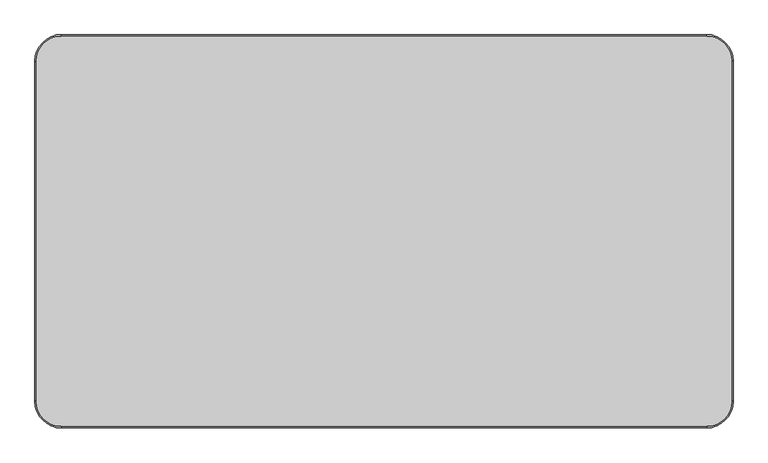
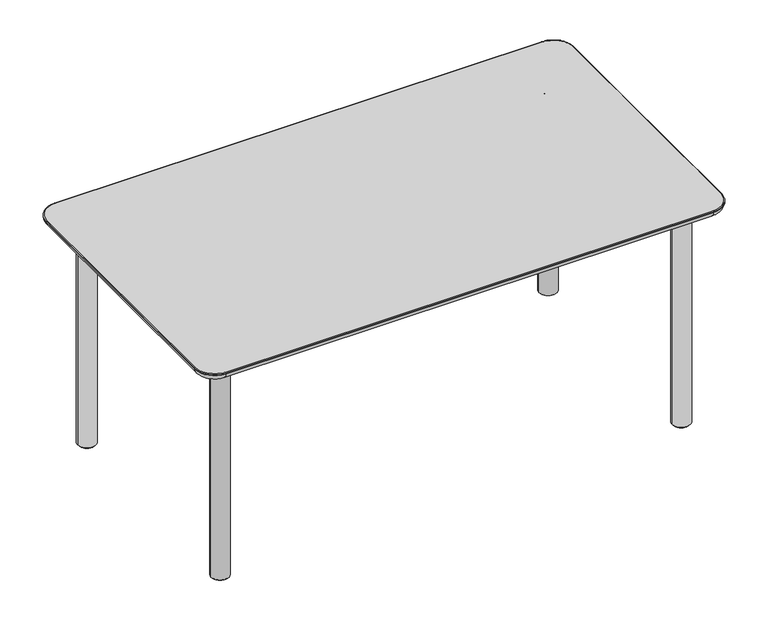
"""IFC4 building model written with IfcOpenShell, lengths in millimetres: furniture geometry, Fredericia - Plan Wood Table - 6680 : Fredericia - Plan Wood Table - 6680."""

from ifc_helpers import new_model, si_unit, point, frame, frame_2d, origin, place, context, project, spatial, polyline, circle_curve, ellipse_curve, trimmed, segment, composite_curve, outline, extrude, source, transform, mapped, element, save
from ifc_brep_helpers import plane_surface, cylinder_surface, revolved_surface, advanced_brep


def furniture_c67f00c6(model_context):
    return source(origin(), model_context, "Body", "SolidModel", [
        extrude(outline(composite_curve([segment(trimmed(circle_curve(frame_2d((655.0, -700.5)), 12.0), [point((655.0, -712.5))], [point((643.0, -700.5))], False, "CARTESIAN"), True, "CONTINUOUS"), segment(polyline([(643.0, -700.5), (643.0, -689.5)]), True, "CONTINUOUS"), segment(trimmed(circle_curve(frame_2d((645.0, -689.5)), 2.0), [point((643.0, -689.5))], [point((645.0, -687.5))], False, "CARTESIAN"), True, "CONTINUOUS"), segment(polyline([(645.0, -687.5), (705.0, -687.5), (705.0, -712.5), (655.0, -712.5)]), True, "CONTINUOUS")], self_intersect=False)), frame((0.0, -335.265681, 0.0), z_axis=(0.0, 1.0, 0.0), x_axis=(0.0, 0.0, 1.0)), (0.0, 0.0, 1.0), 670.5313619),
        extrude(outline(composite_curve([segment(polyline([(-335.265681, 645.0), (-335.265681, 705.0), (34.0, 705.0), (34.0, 692.0)]), True, "CONTINUOUS"), segment(trimmed(circle_curve(frame_2d((39.0, 692.0)), 5.0), [point((34.0, 692.0))], [point((39.0, 687.0))], True, "CARTESIAN"), True, "CONTINUOUS"), segment(polyline([(39.0, 687.0), (61.0, 687.0)]), True, "CONTINUOUS"), segment(trimmed(circle_curve(frame_2d((61.0, 692.0)), 5.0), [point((61.0, 687.0))], [point((66.0, 692.0))], True, "CARTESIAN"), True, "CONTINUOUS"), segment(polyline([(66.0, 692.0), (66.0, 705.0), (335.265681, 705.0), (335.265681, 645.0), (-335.265681, 645.0)]), True, "CONTINUOUS")], self_intersect=False)), frame((-205.0, 0.0, 0.0), z_axis=(1.0, 0.0, 0.0), x_axis=(0.0, 1.0, 0.0)), (0.0, 0.0, 1.0), 25.0),
        extrude(outline(composite_curve([segment(polyline([(655.0, 712.5), (705.0, 712.5), (705.0, 687.5), (645.0, 687.5)]), True, "CONTINUOUS"), segment(trimmed(circle_curve(frame_2d((645.0, 689.5)), 2.0), [point((645.0, 687.5))], [point((643.0, 689.5))], False, "CARTESIAN"), True, "CONTINUOUS"), segment(polyline([(643.0, 689.5), (643.0, 700.5)]), True, "CONTINUOUS"), segment(trimmed(circle_curve(frame_2d((655.0, 700.5)), 12.0), [point((643.0, 700.5))], [point((655.0, 712.5))], False, "CARTESIAN"), True, "CONTINUOUS")], self_intersect=False)), frame((0.0, -335.265681, 0.0), z_axis=(0.0, 1.0, 0.0), x_axis=(0.0, 0.0, 1.0)), (0.0, 0.0, 1.0), 670.5313619),
        extrude(outline(composite_curve([segment(polyline([(-335.265681, 645.0), (-335.265681, 705.0), (34.0, 705.0), (34.0, 692.0)]), True, "CONTINUOUS"), segment(trimmed(circle_curve(frame_2d((39.0, 692.0)), 5.0), [point((34.0, 692.0))], [point((39.0, 687.0))], True, "CARTESIAN"), True, "CONTINUOUS"), segment(polyline([(39.0, 687.0), (61.0, 687.0)]), True, "CONTINUOUS"), segment(trimmed(circle_curve(frame_2d((61.0, 692.0)), 5.0), [point((61.0, 687.0))], [point((66.0, 692.0))], True, "CARTESIAN"), True, "CONTINUOUS"), segment(polyline([(66.0, 692.0), (66.0, 705.0), (335.265681, 705.0), (335.265681, 645.0), (-335.265681, 645.0)]), True, "CONTINUOUS")], self_intersect=False)), frame((180.0, 0.0, 0.0), z_axis=(1.0, 0.0, 0.0), x_axis=(0.0, 1.0, 0.0)), (0.0, 0.0, 1.0), 25.0),
        extrude(outline(composite_curve([segment(polyline([(-362.5, 655.0), (-362.5, 705.0), (-337.5, 705.0), (-337.5, 645.0)]), True, "CONTINUOUS"), segment(trimmed(circle_curve(frame_2d((-339.5, 645.0)), 2.0), [point((-337.5, 645.0))], [point((-339.5, 643.0))], False, "CARTESIAN"), True, "CONTINUOUS"), segment(polyline([(-339.5, 643.0), (-350.5, 643.0)]), True, "CONTINUOUS"), segment(trimmed(circle_curve(frame_2d((-350.5, 655.0)), 12.0), [point((-350.5, 643.0))], [point((-362.5, 655.0))], False, "CARTESIAN"), True, "CONTINUOUS")], self_intersect=False)), frame((-685.265681, 0.0, 0.0), z_axis=(1.0, 0.0, 0.0), x_axis=(0.0, 1.0, 0.0)), (0.0, 0.0, 1.0), 1370.5313619),
        extrude(outline(composite_curve([segment(trimmed(circle_curve(frame_2d((350.5, 655.0)), 12.0), [point((362.5, 655.0))], [point((350.5, 643.0))], False, "CARTESIAN"), True, "CONTINUOUS"), segment(polyline([(350.5, 643.0), (339.5, 643.0)]), True, "CONTINUOUS"), segment(trimmed(circle_curve(frame_2d((339.5, 645.0)), 2.0), [point((339.5, 643.0))], [point((337.5, 645.0))], False, "CARTESIAN"), True, "CONTINUOUS"), segment(polyline([(337.5, 645.0), (337.5, 705.0), (362.5, 705.0), (362.5, 655.0)]), True, "CONTINUOUS")], self_intersect=False)), frame((-685.265681, 0.0, 0.0), z_axis=(1.0, 0.0, 0.0), x_axis=(0.0, 1.0, 0.0)), (0.0, 0.0, 1.0), 1370.5313619),
        advanced_brep(
        [(-740.0, -450.0, 723.0064935), (-800.0, -390.0, 723.0064935), (-800.0, -390.0, 721.0), (-740.0, -450.0, 721.0), (-740.0, -448.0, 725.0064935), (-798.0, -390.0, 725.0064935), (-792.0, -390.0, 705.0), (-740.0, -442.0, 705.0), (740.0, -450.0, 721.0), (740.0, -450.0, 723.0064935), (740.0, -448.0, 725.0064935), (740.0, -442.0, 705.0), (800.0, -390.0, 721.0), (800.0, -390.0, 723.0064935), (798.0, -390.0, 725.0064935), (792.0, -390.0, 705.0), (800.0, 390.0, 721.0), (800.0, 390.0, 723.0064935), (798.0, 390.0, 725.0064935), (792.0, 390.0, 705.0), (740.0, 450.0, 721.0), (740.0, 450.0, 723.0064935), (740.0, 448.0, 725.0064935), (740.0, 442.0, 705.0), (-740.0, 450.0, 721.0), (-740.0, 450.0, 723.0064935), (-740.0, 448.0, 725.0064935), (-740.0, 442.0, 705.0), (-800.0, 390.0, 721.0), (-800.0, 390.0, 723.0064935), (-798.0, 390.0, 725.0064935), (-792.0, 390.0, 705.0)],
        [
            (0, 1, circle_curve(frame((-740.0, -390.0, 723.0064935), z_axis=(0.0, 0.0, -1.0), x_axis=(-1.0, 0.0, 0.0)), 60.0)),
            (1, 2),
            (2, 3, circle_curve(frame((-740.0, -390.0, 721.0), z_axis=(0.0, 0.0, 1.0), x_axis=(-1.0, 0.0, 0.0)), 60.0)),
            (3, 0),
            (0, 4, circle_curve(frame((-740.0, -448.0, 723.0064935), z_axis=(-1.0, 0.0, 0.0), x_axis=(0.0, 1.0, 0.0)), 2.0)),
            (4, 5, circle_curve(frame((-740.0, -390.0, 725.0064935), z_axis=(0.0, 0.0, -1.0), x_axis=(-1.0, 0.0, 0.0)), 58.0)),
            (5, 1, circle_curve(frame((-798.0, -390.0, 723.0064935), z_axis=(0.0, -1.0, 0.0), x_axis=(1.0, 0.0, 0.0)), 2.0)),
            (2, 6, circle_curve(frame((-780.0, -390.0, 721.0), z_axis=(0.0, -1.0, 0.0), x_axis=(1.0, 0.0, 0.0)), 20.0)),
            (6, 7, circle_curve(frame((-740.0, -390.0, 705.0), z_axis=(0.0, 0.0, 1.0), x_axis=(-1.0, 0.0, 0.0)), 52.0)),
            (7, 3, circle_curve(frame((-740.0, -430.0, 721.0), z_axis=(-1.0, 0.0, 0.0), x_axis=(0.0, 1.0, 0.0)), 20.0)),
            (3, 8),
            (8, 9),
            (9, 0),
            (9, 10, circle_curve(frame((740.0, -448.0, 723.0064935), z_axis=(-1.0, 0.0, 0.0), x_axis=(0.0, 1.0, 0.0)), 2.0)),
            (10, 4),
            (7, 11),
            (11, 8, circle_curve(frame((740.0, -430.0, 721.0), z_axis=(-1.0, 0.0, 0.0), x_axis=(0.0, 1.0, 0.0)), 20.0)),
            (8, 12, circle_curve(frame((740.0, -390.0, 721.0), z_axis=(0.0, 0.0, 1.0), x_axis=(0.0, -1.0, 0.0)), 60.0)),
            (12, 13),
            (13, 9, circle_curve(frame((740.0, -390.0, 723.0064935), z_axis=(0.0, 0.0, -1.0), x_axis=(0.0, -1.0, 0.0)), 60.0)),
            (13, 14, circle_curve(frame((798.0, -390.0, 723.0064935), z_axis=(0.0, -1.0, 0.0), x_axis=(-1.0, 0.0, 0.0)), 2.0)),
            (14, 10, circle_curve(frame((740.0, -390.0, 725.0064935), z_axis=(0.0, 0.0, -1.0), x_axis=(0.0, -1.0, 0.0)), 58.0)),
            (11, 15, circle_curve(frame((740.0, -390.0, 705.0), z_axis=(0.0, 0.0, 1.0), x_axis=(0.0, -1.0, 0.0)), 52.0)),
            (15, 12, circle_curve(frame((780.0, -390.0, 721.0), z_axis=(0.0, -1.0, 0.0), x_axis=(-1.0, 0.0, 0.0)), 20.0)),
            (12, 16),
            (16, 17),
            (17, 13),
            (17, 18, circle_curve(frame((798.0, 390.0, 723.0064935), z_axis=(0.0, -1.0, 0.0), x_axis=(-1.0, 0.0, 0.0)), 2.0)),
            (18, 14),
            (15, 19),
            (19, 16, circle_curve(frame((780.0, 390.0, 721.0), z_axis=(0.0, -1.0, 0.0), x_axis=(-1.0, 0.0, 0.0)), 20.0)),
            (16, 20, circle_curve(frame((740.0, 390.0, 721.0), z_axis=(0.0, 0.0, 1.0), x_axis=(1.0, 0.0, 0.0)), 60.0)),
            (20, 21),
            (21, 17, circle_curve(frame((740.0, 390.0, 723.0064935), z_axis=(0.0, 0.0, -1.0), x_axis=(1.0, 0.0, 0.0)), 60.0)),
            (21, 22, circle_curve(frame((740.0, 448.0, 723.0064935), z_axis=(1.0, 0.0, 0.0), x_axis=(0.0, -1.0, 0.0)), 2.0)),
            (22, 18, circle_curve(frame((740.0, 390.0, 725.0064935), z_axis=(0.0, 0.0, -1.0), x_axis=(1.0, 0.0, 0.0)), 58.0)),
            (19, 23, circle_curve(frame((740.0, 390.0, 705.0), z_axis=(0.0, 0.0, 1.0), x_axis=(1.0, 0.0, 0.0)), 52.0)),
            (23, 20, circle_curve(frame((740.0, 430.0, 721.0), z_axis=(1.0, 0.0, 0.0), x_axis=(0.0, -1.0, 0.0)), 20.0)),
            (20, 24),
            (24, 25),
            (25, 21),
            (25, 26, circle_curve(frame((-740.0, 448.0, 723.0064935), z_axis=(1.0, 0.0, 0.0), x_axis=(0.0, -1.0, 0.0)), 2.0)),
            (26, 22),
            (23, 27),
            (27, 24, circle_curve(frame((-740.0, 430.0, 721.0), z_axis=(1.0, 0.0, 0.0), x_axis=(0.0, -1.0, 0.0)), 20.0)),
            (24, 28, circle_curve(frame((-740.0, 390.0, 721.0), z_axis=(0.0, 0.0, 1.0), x_axis=(0.0, 1.0, 0.0)), 60.0)),
            (28, 29),
            (29, 25, circle_curve(frame((-740.0, 390.0, 723.0064935), z_axis=(0.0, 0.0, -1.0), x_axis=(0.0, 1.0, 0.0)), 60.0)),
            (29, 30, circle_curve(frame((-798.0, 390.0, 723.0064935), z_axis=(0.0, 1.0, 0.0), x_axis=(1.0, 0.0, 0.0)), 2.0)),
            (30, 26, circle_curve(frame((-740.0, 390.0, 725.0064935), z_axis=(0.0, 0.0, -1.0), x_axis=(0.0, 1.0, 0.0)), 58.0)),
            (27, 31, circle_curve(frame((-740.0, 390.0, 705.0), z_axis=(0.0, 0.0, 1.0), x_axis=(0.0, 1.0, 0.0)), 52.0)),
            (31, 28, circle_curve(frame((-780.0, 390.0, 721.0), z_axis=(0.0, 1.0, 0.0), x_axis=(1.0, 0.0, 0.0)), 20.0)),
            (1, 29),
            (28, 2),
            (5, 30),
            (6, 31),
        ],
        [
            cylinder_surface(frame((-740.0, -390.0, 0.0), z_axis=(0.0, 0.0, 1.0), x_axis=(-1.0, 0.0, 0.0)), 60.0),
            revolved_surface(trimmed(ellipse_curve(frame((-798.0, -390.0, 723.0064935), z_axis=(0.0, 1.0, 0.0), x_axis=(1.0, 0.0, 0.0)), 2.0, 2.0), [point((-800.0, -390.0, 723.0064935))], [point((-798.0, -390.0, 725.0064935))], True, "CARTESIAN"), (-740.0, -390.0, 0.0), (0.0, 0.0, 1.0)),
            revolved_surface(trimmed(ellipse_curve(frame((-780.0, -390.0, 721.0), z_axis=(0.0, 1.0, 0.0), x_axis=(1.0, 0.0, 0.0)), 20.0, 20.0), [point((-792.0, -390.0, 705.0))], [point((-800.0, -390.0, 721.0))], True, "CARTESIAN"), (-740.0, -390.0, 0.0), (0.0, 0.0, 1.0)),
            plane_surface(frame((-740.0, -450.0, 721.0), z_axis=(0.0, -1.0, 0.0), x_axis=(1.0, 0.0, 0.0))),
            cylinder_surface(frame((-740.0, -448.0, 723.0064935), z_axis=(-1.0, 0.0, 0.0), x_axis=(0.0, 1.0, 0.0)), 2.0),
            cylinder_surface(frame((-740.0, -430.0, 721.0), z_axis=(-1.0, 0.0, 0.0), x_axis=(0.0, 1.0, 0.0)), 20.0),
            cylinder_surface(frame((740.0, -390.0, 0.0), z_axis=(0.0, 0.0, 1.0), x_axis=(0.0, -1.0, 0.0)), 60.0),
            revolved_surface(trimmed(ellipse_curve(frame((740.0, -448.0, 723.0064935), z_axis=(-1.0, 0.0, 0.0), x_axis=(0.0, 1.0, 0.0)), 2.0, 2.0), [point((740.0, -450.0, 723.0064935))], [point((740.0, -448.0, 725.0064935))], True, "CARTESIAN"), (740.0, -390.0, 0.0), (0.0, 0.0, 1.0)),
            revolved_surface(trimmed(ellipse_curve(frame((740.0, -430.0, 721.0), z_axis=(-1.0, 0.0, 0.0), x_axis=(0.0, 1.0, 0.0)), 20.0, 20.0), [point((740.0, -442.0, 705.0))], [point((740.0, -450.0, 721.0))], True, "CARTESIAN"), (740.0, -390.0, 0.0), (0.0, 0.0, 1.0)),
            plane_surface(frame((800.0, -390.0, 721.0), z_axis=(1.0, 0.0, 0.0), x_axis=(0.0, 1.0, 0.0))),
            cylinder_surface(frame((798.0, -390.0, 723.0064935), z_axis=(0.0, -1.0, 0.0), x_axis=(-1.0, 0.0, 0.0)), 2.0),
            cylinder_surface(frame((780.0, -390.0, 721.0), z_axis=(0.0, -1.0, 0.0), x_axis=(-1.0, 0.0, 0.0)), 20.0),
            cylinder_surface(frame((740.0, 390.0, 0.0), z_axis=(0.0, 0.0, 1.0), x_axis=(1.0, 0.0, 0.0)), 60.0),
            revolved_surface(trimmed(ellipse_curve(frame((798.0, 390.0, 723.0064935), z_axis=(0.0, -1.0, 0.0), x_axis=(-1.0, 0.0, 0.0)), 2.0, 2.0), [point((800.0, 390.0, 723.0064935))], [point((798.0, 390.0, 725.0064935))], True, "CARTESIAN"), (740.0, 390.0, 0.0), (0.0, 0.0, 1.0)),
            revolved_surface(trimmed(ellipse_curve(frame((780.0, 390.0, 721.0), z_axis=(0.0, -1.0, 0.0), x_axis=(-1.0, 0.0, 0.0)), 20.0, 20.0), [point((792.0, 390.0, 705.0))], [point((800.0, 390.0, 721.0))], True, "CARTESIAN"), (740.0, 390.0, 0.0), (0.0, 0.0, 1.0)),
            plane_surface(frame((740.0, 450.0, 721.0), z_axis=(0.0, 1.0, 0.0), x_axis=(-1.0, 0.0, 0.0))),
            cylinder_surface(frame((740.0, 448.0, 723.0064935), z_axis=(1.0, 0.0, 0.0), x_axis=(0.0, -1.0, 0.0)), 2.0),
            cylinder_surface(frame((740.0, 430.0, 721.0), z_axis=(1.0, 0.0, 0.0), x_axis=(0.0, -1.0, 0.0)), 20.0),
            cylinder_surface(frame((-740.0, 390.0, 0.0), z_axis=(0.0, 0.0, 1.0), x_axis=(0.0, 1.0, 0.0)), 60.0),
            revolved_surface(trimmed(ellipse_curve(frame((-740.0, 448.0, 723.0064935), z_axis=(1.0, 0.0, 0.0), x_axis=(0.0, -1.0, 0.0)), 2.0, 2.0), [point((-740.0, 450.0, 723.0064935))], [point((-740.0, 448.0, 725.0064935))], True, "CARTESIAN"), (-740.0, 390.0, 0.0), (0.0, 0.0, 1.0)),
            revolved_surface(trimmed(ellipse_curve(frame((-740.0, 430.0, 721.0), z_axis=(1.0, 0.0, 0.0), x_axis=(0.0, -1.0, 0.0)), 20.0, 20.0), [point((-740.0, 442.0, 705.0))], [point((-740.0, 450.0, 721.0))], True, "CARTESIAN"), (-740.0, 390.0, 0.0), (0.0, 0.0, 1.0)),
            plane_surface(frame((-800.0, 390.0, 721.0), z_axis=(-1.0, 0.0, 0.0), x_axis=(0.0, -1.0, 0.0))),
            cylinder_surface(frame((-798.0, 390.0, 723.0064935), z_axis=(0.0, 1.0, 0.0), x_axis=(1.0, 0.0, 0.0)), 2.0),
            plane_surface(frame((-798.0, 390.0, 725.0064935), z_axis=(0.0, 0.0, 1.0), x_axis=(0.0, -1.0, 0.0))),
            plane_surface(frame((-788.22112, 390.0, 705.0), z_axis=(0.0, 0.0, -1.0), x_axis=(0.0, -1.0, 0.0))),
            cylinder_surface(frame((-780.0, 390.0, 721.0), z_axis=(0.0, 1.0, 0.0), x_axis=(1.0, 0.0, 0.0)), 20.0),
        ],
        [
            (0, [[1, 2, 3, 4]]),
            (1, [[-1, 5, 6, 7]]),
            (2, [[-3, 8, 9, 10]]),
            (3, [[-4, 11, 12, 13]]),
            (4, [[-5, -13, 14, 15]]),
            (5, [[-10, 16, 17, -11]]),
            (6, [[-12, 18, 19, 20]]),
            (7, [[-14, -20, 21, 22]]),
            (8, [[-17, 23, 24, -18]]),
            (9, [[-19, 25, 26, 27]]),
            (10, [[-21, -27, 28, 29]]),
            (11, [[-24, 30, 31, -25]]),
            (12, [[-26, 32, 33, 34]]),
            (13, [[-28, -34, 35, 36]]),
            (14, [[-31, 37, 38, -32]]),
            (15, [[-33, 39, 40, 41]]),
            (16, [[-35, -41, 42, 43]]),
            (17, [[-38, 44, 45, -39]]),
            (18, [[-40, 46, 47, 48]]),
            (19, [[-42, -48, 49, 50]]),
            (20, [[-45, 51, 52, -46]]),
            (21, [[-2, 53, -47, 54]]),
            (22, [[-7, 55, -49, -53]]),
            (23, [[-6, -15, -22, -29, -36, -43, -50, -55]]),
            (24, [[-9, 56, -51, -44, -37, -30, -23, -16]]),
            (25, [[-8, -54, -52, -56]]),
        ],
    ),
        advanced_brep(
        [(672.5, 350.0, 3.0), (727.5, 350.0, 3.0), (724.5, 350.0, 0.0), (675.5, 350.0, 0.0), (672.5, 350.0, 705.0), (727.5, 350.0, 705.0), (700.0, 350.0, 705.0), (700.0, 350.0, 0.0)],
        [
            (0, 1, circle_curve(frame((700.0, 350.0, 3.0), z_axis=(0.0, 0.0, -1.0), x_axis=(1.0, 0.0, 0.0)), 27.5)),
            (1, 2),
            (2, 3, circle_curve(frame((700.0, 350.0, 0.0), z_axis=(0.0, 0.0, 1.0), x_axis=(1.0, 0.0, 0.0)), 24.5)),
            (3, 0),
            (1, 0, circle_curve(frame((700.0, 350.0, 3.0), z_axis=(0.0, 0.0, -1.0), x_axis=(1.0, 0.0, 0.0)), 27.5)),
            (3, 2, circle_curve(frame((700.0, 350.0, 0.0), z_axis=(0.0, 0.0, 1.0), x_axis=(1.0, 0.0, 0.0)), 24.5)),
            (4, 5, circle_curve(frame((700.0, 350.0, 705.0), z_axis=(0.0, 0.0, -1.0), x_axis=(1.0, 0.0, 0.0)), 27.5)),
            (5, 1),
            (0, 4),
            (5, 4, circle_curve(frame((700.0, 350.0, 705.0), z_axis=(0.0, 0.0, -1.0), x_axis=(1.0, 0.0, 0.0)), 27.5)),
            (6, 5),
            (4, 6),
            (2, 7),
            (7, 3),
        ],
        [
            revolved_surface(polyline([(724.5, 350.0, 0.0), (727.5, 350.0, 3.0)]), (700.0, 350.0, 0.0), (0.0, 0.0, 1.0)),
            cylinder_surface(frame((700.0, 350.0, 0.0), z_axis=(0.0, 0.0, 1.0), x_axis=(1.0, 0.0, 0.0)), 27.5),
            plane_surface(frame((700.0, 350.0, 705.0), z_axis=(0.0, 0.0, 1.0), x_axis=(1.0, 0.0, 0.0))),
            plane_surface(frame((700.0, 350.0, 0.0), z_axis=(0.0, 0.0, -1.0), x_axis=(1.0, 0.0, 0.0))),
        ],
        [
            (0, [[1, 2, 3, 4]]),
            (0, [[5, -4, 6, -2]]),
            (1, [[7, 8, -1, 9]]),
            (1, [[10, -9, -5, -8]]),
            (2, [[11, -7, 12]]),
            (2, [[-12, -10, -11]]),
            (3, [[-3, 13, 14]]),
            (3, [[-6, -14, -13]]),
        ],
    ),
        advanced_brep(
        [(675.5, -350.0, 0.0), (724.5, -350.0, 0.0), (727.5, -350.0, 3.0), (672.5, -350.0, 3.0), (727.5, -350.0, 705.0), (672.5, -350.0, 705.0), (700.0, -350.0, 705.0), (700.0, -350.0, 0.0)],
        [
            (0, 1, circle_curve(frame((700.0, -350.0, 0.0), z_axis=(0.0, 0.0, 1.0), x_axis=(1.0, 0.0, 0.0)), 24.5)),
            (1, 2),
            (2, 3, circle_curve(frame((700.0, -350.0, 3.0), z_axis=(0.0, 0.0, -1.0), x_axis=(1.0, 0.0, 0.0)), 27.5)),
            (3, 0),
            (1, 0, circle_curve(frame((700.0, -350.0, 0.0), z_axis=(0.0, 0.0, 1.0), x_axis=(1.0, 0.0, 0.0)), 24.5)),
            (3, 2, circle_curve(frame((700.0, -350.0, 3.0), z_axis=(0.0, 0.0, -1.0), x_axis=(1.0, 0.0, 0.0)), 27.5)),
            (2, 4),
            (4, 5, circle_curve(frame((700.0, -350.0, 705.0), z_axis=(0.0, 0.0, -1.0), x_axis=(1.0, 0.0, 0.0)), 27.5)),
            (5, 3),
            (5, 4, circle_curve(frame((700.0, -350.0, 705.0), z_axis=(0.0, 0.0, -1.0), x_axis=(1.0, 0.0, 0.0)), 27.5)),
            (4, 6),
            (6, 5),
            (7, 1),
            (0, 7),
        ],
        [
            revolved_surface(polyline([(727.5, -350.0, 3.0), (724.5, -350.0, 0.0)]), (700.0, -350.0, 0.0), (0.0, 0.0, -1.0)),
            cylinder_surface(frame((700.0, -350.0, 0.0), z_axis=(0.0, 0.0, -1.0), x_axis=(1.0, 0.0, 0.0)), 27.5),
            plane_surface(frame((700.0, -350.0, 705.0), z_axis=(0.0, 0.0, 1.0), x_axis=(1.0, 0.0, 0.0))),
            plane_surface(frame((700.0, -350.0, 0.0), z_axis=(0.0, 0.0, -1.0), x_axis=(1.0, 0.0, 0.0))),
        ],
        [
            (0, [[1, 2, 3, 4]]),
            (0, [[5, -4, 6, -2]]),
            (1, [[-3, 7, 8, 9]]),
            (1, [[-6, -9, 10, -7]]),
            (2, [[-8, 11, 12]]),
            (2, [[-10, -12, -11]]),
            (3, [[13, -1, 14]]),
            (3, [[-14, -5, -13]]),
        ],
    ),
        advanced_brep(
        [(-675.5, 350.0, 0.0), (-724.5, 350.0, 0.0), (-727.5, 350.0, 3.0), (-672.5, 350.0, 3.0), (-727.5, 350.0, 705.0), (-672.5, 350.0, 705.0), (-700.0, 350.0, 705.0), (-700.0, 350.0, 0.0)],
        [
            (0, 1, circle_curve(frame((-700.0, 350.0, 0.0), z_axis=(0.0, 0.0, 1.0), x_axis=(-1.0, 0.0, 0.0)), 24.5)),
            (1, 2),
            (2, 3, circle_curve(frame((-700.0, 350.0, 3.0), z_axis=(0.0, 0.0, -1.0), x_axis=(-1.0, 0.0, 0.0)), 27.5)),
            (3, 0),
            (1, 0, circle_curve(frame((-700.0, 350.0, 0.0), z_axis=(0.0, 0.0, 1.0), x_axis=(-1.0, 0.0, 0.0)), 24.5)),
            (3, 2, circle_curve(frame((-700.0, 350.0, 3.0), z_axis=(0.0, 0.0, -1.0), x_axis=(-1.0, 0.0, 0.0)), 27.5)),
            (2, 4),
            (4, 5, circle_curve(frame((-700.0, 350.0, 705.0), z_axis=(0.0, 0.0, -1.0), x_axis=(-1.0, 0.0, 0.0)), 27.5)),
            (5, 3),
            (5, 4, circle_curve(frame((-700.0, 350.0, 705.0), z_axis=(0.0, 0.0, -1.0), x_axis=(-1.0, 0.0, 0.0)), 27.5)),
            (4, 6),
            (6, 5),
            (7, 1),
            (0, 7),
        ],
        [
            revolved_surface(polyline([(-727.5, 350.0, 3.0), (-724.5, 350.0, 0.0)]), (-700.0, 350.0, 0.0), (0.0, 0.0, -1.0)),
            cylinder_surface(frame((-700.0, 350.0, 0.0), z_axis=(0.0, 0.0, -1.0), x_axis=(-1.0, 0.0, 0.0)), 27.5),
            plane_surface(frame((-700.0, 350.0, 705.0), z_axis=(0.0, 0.0, 1.0), x_axis=(-1.0, 0.0, 0.0))),
            plane_surface(frame((-700.0, 350.0, 0.0), z_axis=(0.0, 0.0, -1.0), x_axis=(-1.0, 0.0, 0.0))),
        ],
        [
            (0, [[1, 2, 3, 4]]),
            (0, [[5, -4, 6, -2]]),
            (1, [[-3, 7, 8, 9]]),
            (1, [[-6, -9, 10, -7]]),
            (2, [[-8, 11, 12]]),
            (2, [[-10, -12, -11]]),
            (3, [[13, -1, 14]]),
            (3, [[-14, -5, -13]]),
        ],
    ),
        advanced_brep(
        [(-672.5, -350.0, 3.0), (-727.5, -350.0, 3.0), (-724.5, -350.0, 0.0), (-675.5, -350.0, 0.0), (-672.5, -350.0, 705.0), (-727.5, -350.0, 705.0), (-700.0, -350.0, 705.0), (-700.0, -350.0, 0.0)],
        [
            (0, 1, circle_curve(frame((-700.0, -350.0, 3.0), z_axis=(0.0, 0.0, -1.0), x_axis=(-1.0, 0.0, 0.0)), 27.5)),
            (1, 2),
            (2, 3, circle_curve(frame((-700.0, -350.0, 0.0), z_axis=(0.0, 0.0, 1.0), x_axis=(-1.0, 0.0, 0.0)), 24.5)),
            (3, 0),
            (1, 0, circle_curve(frame((-700.0, -350.0, 3.0), z_axis=(0.0, 0.0, -1.0), x_axis=(-1.0, 0.0, 0.0)), 27.5)),
            (3, 2, circle_curve(frame((-700.0, -350.0, 0.0), z_axis=(0.0, 0.0, 1.0), x_axis=(-1.0, 0.0, 0.0)), 24.5)),
            (4, 5, circle_curve(frame((-700.0, -350.0, 705.0), z_axis=(0.0, 0.0, -1.0), x_axis=(-1.0, 0.0, 0.0)), 27.5)),
            (5, 1),
            (0, 4),
            (5, 4, circle_curve(frame((-700.0, -350.0, 705.0), z_axis=(0.0, 0.0, -1.0), x_axis=(-1.0, 0.0, 0.0)), 27.5)),
            (6, 5),
            (4, 6),
            (2, 7),
            (7, 3),
        ],
        [
            revolved_surface(polyline([(-724.5, -350.0, 0.0), (-727.5, -350.0, 3.0)]), (-700.0, -350.0, 0.0), (0.0, 0.0, 1.0)),
            cylinder_surface(frame((-700.0, -350.0, 0.0), z_axis=(0.0, 0.0, 1.0), x_axis=(-1.0, 0.0, 0.0)), 27.5),
            plane_surface(frame((-700.0, -350.0, 705.0), z_axis=(0.0, 0.0, 1.0), x_axis=(-1.0, 0.0, 0.0))),
            plane_surface(frame((-700.0, -350.0, 0.0), z_axis=(0.0, 0.0, -1.0), x_axis=(-1.0, 0.0, 0.0))),
        ],
        [
            (0, [[1, 2, 3, 4]]),
            (0, [[5, -4, 6, -2]]),
            (1, [[7, 8, -1, 9]]),
            (1, [[10, -9, -5, -8]]),
            (2, [[11, -7, 12]]),
            (2, [[-12, -10, -11]]),
            (3, [[-3, 13, 14]]),
            (3, [[-6, -14, -13]]),
        ],
    ),
    ])


if __name__ == "__main__":
    model = new_model("IFC4")
    model_context = context("Model", 3, world=origin())
    ifc_project = project(units=[si_unit("LENGTHUNIT", "METRE", prefix="MILLI")], contexts=[model_context])
    site = spatial("IfcSite", under=ifc_project)
    building = spatial("IfcBuilding", under=site)
    placement = place(None, origin())
    furniture_shape = furniture_c67f00c6(model_context)
    element("IfcFurniture", 1, ObjectType="Fredericia - Plan Wood Table - 6680 : Fredericia - Plan Wood Table - 6680", at=placement, inside=building, context=model_context, shape_type="MappedRepresentation", body=[
        mapped(furniture_shape, transform((0.0, 0.0, 0.0), x_axis=(1.0, 0.0, 0.0), y_axis=(0.0, 1.0, 0.0), z_axis=(0.0, 0.0, 1.0))),
    ])
    save(model, "model.ifc")
